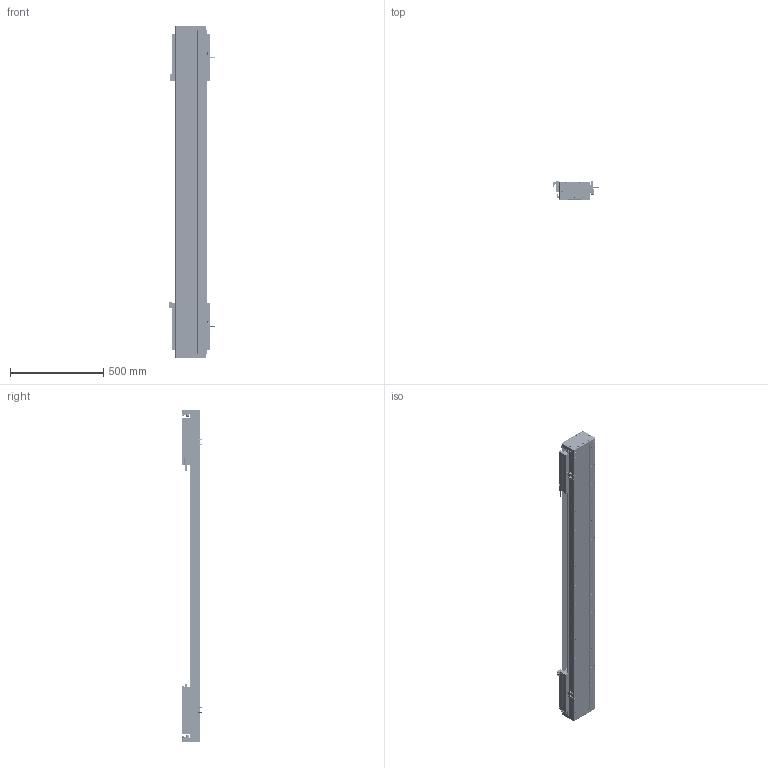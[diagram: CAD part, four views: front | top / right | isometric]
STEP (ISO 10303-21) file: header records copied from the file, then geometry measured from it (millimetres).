
FILE_DESCRIPTION (( 'STEP AP203' ), '1' );
FILE_NAME ('DA-C165-2-C3-T1160-C010-0.2 直线电机.STEP', '2023-06-13T09:25:55', ( '微软用户' ), ( '微软中国' ), 'SwSTEP 2.0', 'SolidWorks 2019', '' );
FILE_SCHEMA (( 'CONFIG_CONTROL_DESIGN' ));
Length unit declared in the file: millimetre
Products named in the file (22): 复件 DMA-010-0.2 读数头^DA-C165-C3-T-C010-0.2-N 直线电机; 复件 DA165-GDLK-00 钢带拉块^复件 CU165钢带组件_DA-C165-C3-T-C010-0.2-N 直线电机; 复件 DA95-HXJ-00 缓冲橡胶^DA-C165-C3-T-C010-0.2-N 直线电机; 葩璃 CKM03-W075-C1C2-TP-3.0^DA-C165-C3-T-C010-0.2-N 眻盄萇儂; 葩璃 PM-T45^DA-C165-C3-T-C010-0.2-N 眻盄萇儂; DA-C165-2-C3-T1160-C010-0.2 眻盄萇儂; 复件 XD-U-02L 磁栅尺^DA-C165-C3-T-C010-0.2-N 直线电机_T; IU-CU165-L 菁釱絳寢; 复件 CU165 底座^IU-CU165-L 底座导轨_L1740; 葩璃 DA95-GT-T-00^IU-CU165-L 菁釱絳寢_T; 珨极趙賑雄怢啣C3-wf; 复件 DA165-GD-1860-002-00 钢带盖板^复件 CU165钢带组件_DA-C165-C3-T-C010-0.2-N 直线电机; 复件 DA165-GD-DG-H-00 端盖^复件 CU165钢带组件_DA-C165-C3-T-C010-0.2-N 直线电机; 复件 DKW-HXJ-JY-00 缓冲橡胶^DA-C165-C3-T-C010-0.2-N 直线电机; 复件 DA165-GYP-00 光电感应片^DA-C165-C3-T-C010-0.2-N 直线电机; 复件 六角薄螺母 M3^DA-C165-C3-T-C010-0.2-N 直线电机_GB_FASTENER_NUT_STNAB M3-C; 复件 CU165钢带组件^DA-C165-C3-T-C010-0.2-N 直线电机; 复件 66338-1000-006-00 光电感应块^DA-C165-C3-T-C010-0.2-N 直线电机; 复件 DA165-GDYK-00 钢带压块^复件 CU165钢带组件_DA-C165-C3-T-C010-0.2-N 直线电机; 复件 DA126-GYP-ZJ-00 中间光电感应片^DA-C165-C3-T-C010-0.2-N 直线电机; 葩璃 CKM01-W075-TRL^DA-C165-C3-T-C010-0.2-N 眻盄萇儂; 葩璃 PM-Y45^DA-C165-C3-T-C010-0.2-N 眻盄萇儂
Assembly tree (45 placements, depth 3):
  DA-C165-2-C3-T1160-C010-0.2 眻盄萇儂
    IU-CU165-L 菁釱絳寢
      复件 CU165 底座^IU-CU165-L 底座导轨_L1740
      葩璃 DA95-GT-T-00^IU-CU165-L 菁釱絳寢_T  x4
    复件 XD-U-02L 磁栅尺^DA-C165-C3-T-C010-0.2-N 直线电机_T
    葩璃 PM-T45^DA-C165-C3-T-C010-0.2-N 眻盄萇儂  x4
    葩璃 CKM01-W075-TRL^DA-C165-C3-T-C010-0.2-N 眻盄萇儂
    复件 CU165钢带组件^DA-C165-C3-T-C010-0.2-N 直线电机
      复件 DA165-GD-DG-H-00 端盖^复件 CU165钢带组件_DA-C165-C3-T-C010-0.2-N 直线电机  x2
      复件 DA165-GDYK-00 钢带压块^复件 CU165钢带组件_DA-C165-C3-T-C010-0.2-N 直线电机  x2
      复件 DA165-GD-1860-002-00 钢带盖板^复件 CU165钢带组件_DA-C165-C3-T-C010-0.2-N 直线电机
      复件 DA165-GDLK-00 钢带拉块^复件 CU165钢带组件_DA-C165-C3-T-C010-0.2-N 直线电机  x2
    复件 DA95-HXJ-00 缓冲橡胶^DA-C165-C3-T-C010-0.2-N 直线电机  x4
    复件 DMA-010-0.2 读数头^DA-C165-C3-T-C010-0.2-N 直线电机  x2
    复件 DA165-GYP-00 光电感应片^DA-C165-C3-T-C010-0.2-N 直线电机  x2
    复件 66338-1000-006-00 光电感应块^DA-C165-C3-T-C010-0.2-N 直线电机
    葩璃 PM-Y45^DA-C165-C3-T-C010-0.2-N 眻盄萇儂
    复件 DA126-GYP-ZJ-00 中间光电感应片^DA-C165-C3-T-C010-0.2-N 直线电机
    葩璃 CKM03-W075-C1C2-TP-3.0^DA-C165-C3-T-C010-0.2-N 眻盄萇儂  x2
    复件 DKW-HXJ-JY-00 缓冲橡胶^DA-C165-C3-T-C010-0.2-N 直线电机  x2
    复件 六角薄螺母 M3^DA-C165-C3-T-C010-0.2-N 直线电机_GB_FASTENER_NUT_STNAB M3-C  x8
    珨极趙賑雄怢啣C3-wf  x2
Bounding box: 247.2 x 111.45 x 1780 mm (x, y, z)
Volume: 13222404.3 mm3; surface area: 3562746.2 mm2
Topology: 121 solids, 221 shells, 6145 faces, 16342 edges, 10090 vertices
Faces by surface type: cylinder 3086, plane 1991, cone 980, torus 80, sphere 8
Entity records: 127462 total; most frequent: CARTESIAN_POINT 32011, DIRECTION 19416, ORIENTED_EDGE 19268, EDGE_CURVE 9634, AXIS2_PLACEMENT_3D 7367, VERTEX_POINT 6244, VECTOR 4682, LINE 4682
